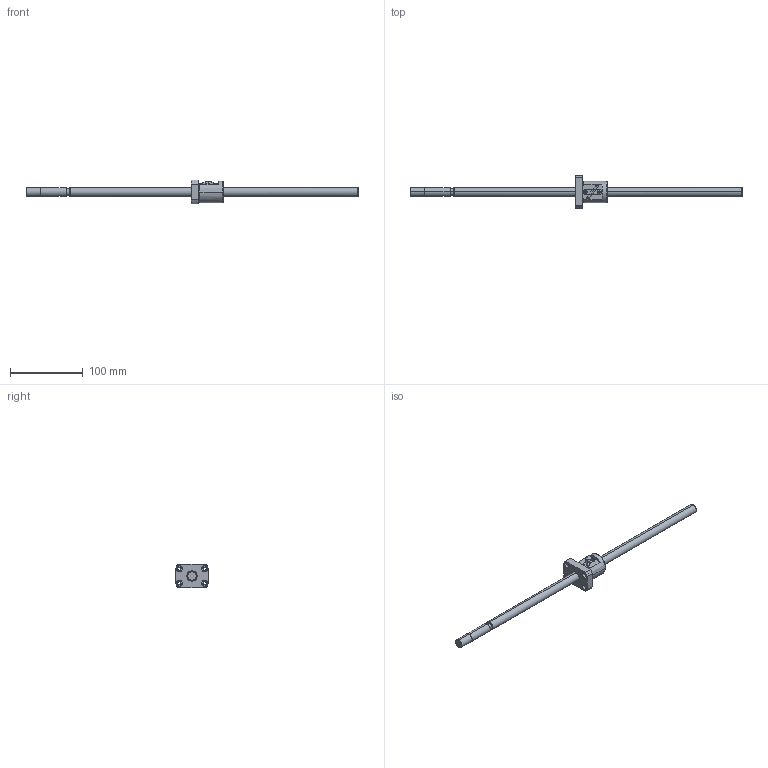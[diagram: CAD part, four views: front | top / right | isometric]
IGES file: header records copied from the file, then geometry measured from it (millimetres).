
Global section: file name: No Iges File Name specified; native system: AutoDesk Inventor R10; preprocessor: AutoDesk Inventor Iges Exporter R10; author: No Author specified; organization: No Organization specified; date: 20101224.140126; units: millimetre
Bounding box: 455 x 45 x 32 mm (x, y, z)
Surface area: 27450.3 mm2 (no closed solid volume)
Topology: 0 solids, 0 shells, 133 faces, 958 edges, 958 vertices
Faces by surface type: bspline 133
